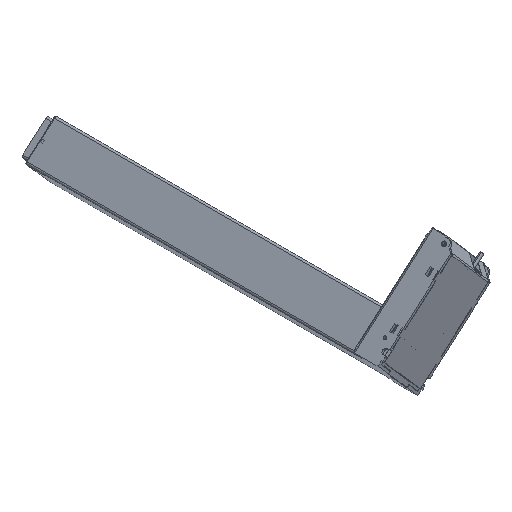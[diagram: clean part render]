
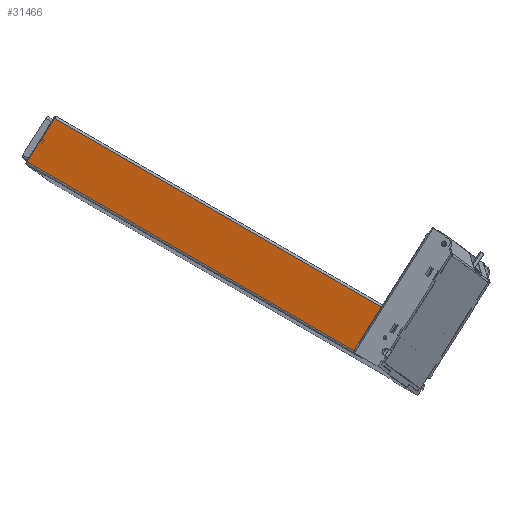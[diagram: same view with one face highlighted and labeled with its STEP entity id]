
A CAD part, isometric view. The second image highlights one B-rep face of the part: STEP entity #31466.
In plain terms, the highlighted planar face has unit normal (-0.66, 0, 0.752).
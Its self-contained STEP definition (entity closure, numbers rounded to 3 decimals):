
#622 = VECTOR ( 'NONE', #1493, 1000. ) ;
#1493 = DIRECTION ( 'NONE',  ( 0., -1., 0. ) ) ;
#1558 = DIRECTION ( 'NONE',  ( -0.66, 0., 0.752 ) ) ;
#3539 = DIRECTION ( 'NONE',  ( -0.752, 0., -0.66 ) ) ;
#3614 = ORIENTED_EDGE ( 'NONE', *, *, #16080, .F. ) ;
#3638 = VERTEX_POINT ( 'NONE', #14899 ) ;
#3997 = VERTEX_POINT ( 'NONE', #30104 ) ;
#4474 = CIRCLE ( 'NONE', #21469, 4. ) ;
#4667 = VECTOR ( 'NONE', #30489, 1000. ) ;
#4751 = CARTESIAN_POINT ( 'NONE',  ( 15.573, 292.964, 643.352 ) ) ;
#5956 = LINE ( 'NONE', #9405, #19159 ) ;
#6096 = CARTESIAN_POINT ( 'NONE',  ( 15.573, 292.964, 643.352 ) ) ;
#6301 = VERTEX_POINT ( 'NONE', #33251 ) ;
#6458 = VERTEX_POINT ( 'NONE', #39902 ) ;
#7235 = VERTEX_POINT ( 'NONE', #38276 ) ;
#8093 = DIRECTION ( 'NONE',  ( 0.752, 0., 0.66 ) ) ;
#9405 = CARTESIAN_POINT ( 'NONE',  ( -32.531, -500293.536, 601.138 ) ) ;
#9904 = LINE ( 'NONE', #36445, #15485 ) ;
#11847 = PLANE ( 'NONE',  #12862 ) ;
#12862 = AXIS2_PLACEMENT_3D ( 'NONE', #21466, #19374, #34599 ) ;
#14548 = CARTESIAN_POINT ( 'NONE',  ( -31.779, -286.536, 601.798 ) ) ;
#14899 = CARTESIAN_POINT ( 'NONE',  ( -32.531, 292.964, 601.138 ) ) ;
#14968 = ORIENTED_EDGE ( 'NONE', *, *, #26442, .F. ) ;
#15485 = VECTOR ( 'NONE', #17201, 1000. ) ;
#16080 = EDGE_CURVE ( 'NONE', #6458, #7235, #9904, .T. ) ;
#16190 = EDGE_CURVE ( 'NONE', #3997, #6458, #25121, .T. ) ;
#16619 = CARTESIAN_POINT ( 'NONE',  ( -32.531, -290.663, 601.138 ) ) ;
#17201 = DIRECTION ( 'NONE',  ( -0.752, 0., -0.66 ) ) ;
#17312 = VERTEX_POINT ( 'NONE', #16619 ) ;
#17847 = LINE ( 'NONE', #4751, #4667 ) ;
#17989 = CARTESIAN_POINT ( 'NONE',  ( 15.573, 292.964, 643.352 ) ) ;
#18978 = ORIENTED_EDGE ( 'NONE', *, *, #22962, .F. ) ;
#19159 = VECTOR ( 'NONE', #22323, 1000. ) ;
#19374 = DIRECTION ( 'NONE',  ( -0.66, 0., 0.752 ) ) ;
#20580 = VECTOR ( 'NONE', #3539, 1000. ) ;
#21232 = ORIENTED_EDGE ( 'NONE', *, *, #22153, .F. ) ;
#21466 = CARTESIAN_POINT ( 'NONE',  ( 15.573, -500293.536, 643.352 ) ) ;
#21469 = AXIS2_PLACEMENT_3D ( 'NONE', #27544, #1558, #8093 ) ;
#21556 = EDGE_CURVE ( 'NONE', #17312, #3638, #5956, .T. ) ;
#22153 = EDGE_CURVE ( 'NONE', #6301, #17312, #4474, .T. ) ;
#22323 = DIRECTION ( 'NONE',  ( 0., 1., 0. ) ) ;
#22962 = EDGE_CURVE ( 'NONE', #27762, #37758, #27824, .T. ) ;
#23215 = VECTOR ( 'NONE', #28270, 1000. ) ;
#25121 = LINE ( 'NONE', #36114, #20580 ) ;
#25946 = ORIENTED_EDGE ( 'NONE', *, *, #29911, .F. ) ;
#26442 = EDGE_CURVE ( 'NONE', #7235, #6301, #31140, .T. ) ;
#27544 = CARTESIAN_POINT ( 'NONE',  ( -31.779, -294.536, 601.798 ) ) ;
#27762 = VERTEX_POINT ( 'NONE', #17989 ) ;
#27824 = LINE ( 'NONE', #6096, #23215 ) ;
#28270 = DIRECTION ( 'NONE',  ( 0., -1., 0. ) ) ;
#29911 = EDGE_CURVE ( 'NONE', #3638, #27762, #17847, .T. ) ;
#30104 = CARTESIAN_POINT ( 'NONE',  ( 5.719, -286.536, 634.705 ) ) ;
#30489 = DIRECTION ( 'NONE',  ( 0.752, 0., 0.66 ) ) ;
#30930 = CARTESIAN_POINT ( 'NONE',  ( -31.779, -286.536, 601.798 ) ) ;
#30960 = FACE_OUTER_BOUND ( 'NONE', #40363, .T. ) ;
#31140 = LINE ( 'NONE', #14548, #622 ) ;
#31466 = ADVANCED_FACE ( 'NONE', ( #30960 ), #11847, .T. ) ;
#32996 = CARTESIAN_POINT ( 'NONE',  ( 15.573, -286.536, 643.352 ) ) ;
#33139 = ORIENTED_EDGE ( 'NONE', *, *, #21556, .F. ) ;
#33251 = CARTESIAN_POINT ( 'NONE',  ( -31.779, -290.536, 601.798 ) ) ;
#33310 = VECTOR ( 'NONE', #40719, 1000. ) ;
#33970 = ORIENTED_EDGE ( 'NONE', *, *, #16190, .F. ) ;
#34599 = DIRECTION ( 'NONE',  ( 0.752, 0., 0.66 ) ) ;
#36114 = CARTESIAN_POINT ( 'NONE',  ( -31.779, -286.536, 601.798 ) ) ;
#36445 = CARTESIAN_POINT ( 'NONE',  ( -31.779, -286.536, 601.798 ) ) ;
#37758 = VERTEX_POINT ( 'NONE', #32996 ) ;
#38276 = CARTESIAN_POINT ( 'NONE',  ( -31.779, -286.536, 601.798 ) ) ;
#39732 = ORIENTED_EDGE ( 'NONE', *, *, #42081, .F. ) ;
#39902 = CARTESIAN_POINT ( 'NONE',  ( 3.629, -286.536, 632.871 ) ) ;
#40363 = EDGE_LOOP ( 'NONE', ( #21232, #14968, #3614, #33970, #39732, #18978, #25946, #33139 ) ) ;
#40719 = DIRECTION ( 'NONE',  ( -0.752, 0., -0.66 ) ) ;
#41916 = LINE ( 'NONE', #30930, #33310 ) ;
#42081 = EDGE_CURVE ( 'NONE', #37758, #3997, #41916, .T. ) ;
